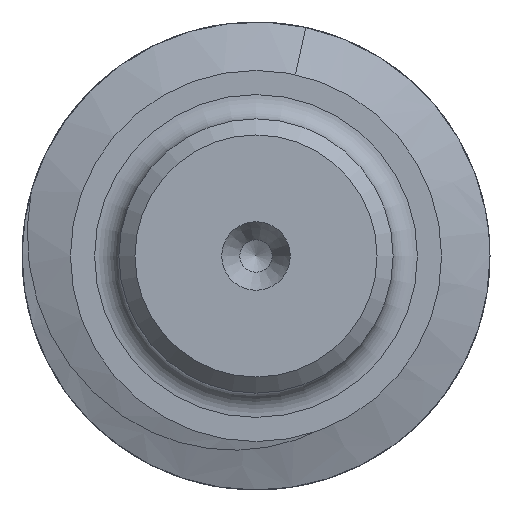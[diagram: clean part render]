
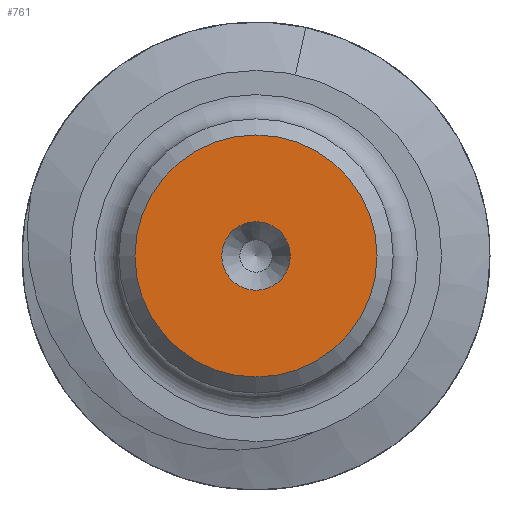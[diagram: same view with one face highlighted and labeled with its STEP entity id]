
A CAD part, left-side view. The second image highlights one B-rep face of the part: STEP entity #761.
In plain terms, the highlighted planar face has unit normal (-1, 0, 0).
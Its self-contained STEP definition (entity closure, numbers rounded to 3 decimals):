
#21=FACE_BOUND('',#111,.T.);
#25=PLANE('',#839);
#63=FACE_OUTER_BOUND('',#110,.T.);
#110=EDGE_LOOP('',(#591));
#111=EDGE_LOOP('',(#592));
#151=CIRCLE('',#838,7.5);
#152=CIRCLE('',#840,2.125);
#332=VERTEX_POINT('',#2773);
#333=VERTEX_POINT('',#2777);
#426=EDGE_CURVE('',#332,#332,#151,.T.);
#427=EDGE_CURVE('',#333,#333,#152,.T.);
#591=ORIENTED_EDGE('',*,*,#426,.F.);
#592=ORIENTED_EDGE('',*,*,#427,.T.);
#761=ADVANCED_FACE('',(#63,#21),#25,.T.);
#838=AXIS2_PLACEMENT_3D('',#2775,#963,#964);
#839=AXIS2_PLACEMENT_3D('',#2776,#965,#966);
#840=AXIS2_PLACEMENT_3D('',#2778,#967,#968);
#963=DIRECTION('center_axis',(1.,0.,0.));
#964=DIRECTION('ref_axis',(0.,-1.,0.));
#965=DIRECTION('center_axis',(-1.,0.,0.));
#966=DIRECTION('ref_axis',(0.,0.,1.));
#967=DIRECTION('center_axis',(1.,0.,0.));
#968=DIRECTION('ref_axis',(0.,0.,-1.));
#2773=CARTESIAN_POINT('',(-59.,7.5,0.));
#2775=CARTESIAN_POINT('Origin',(-59.,0.,0.));
#2776=CARTESIAN_POINT('Origin',(-59.,8.5,0.));
#2777=CARTESIAN_POINT('',(-59.,-2.125,0.));
#2778=CARTESIAN_POINT('Origin',(-59.,0.,0.));
